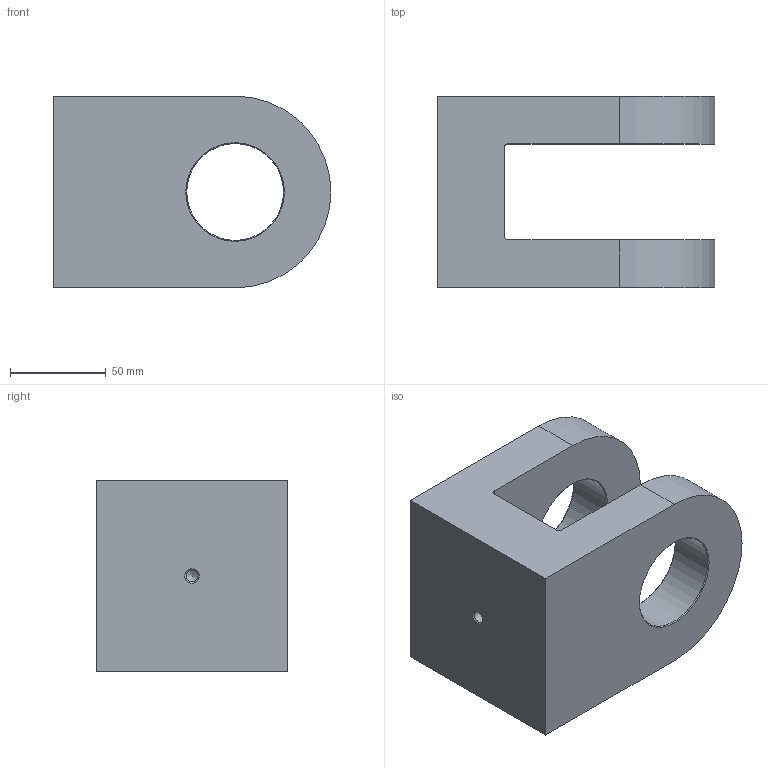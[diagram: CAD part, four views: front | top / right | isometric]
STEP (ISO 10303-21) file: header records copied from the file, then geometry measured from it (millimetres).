
FILE_DESCRIPTION( ( 'Unknown' ), '1' );
FILE_NAME( 'E:/LIBRERIA_3d/ACCESSORI/CFS0000050.stp', 'Unknown', ( 'Unknown' ), ( 'Unknown' ), 'PSStep 17.0.49', 'Unknown', ' ' );
FILE_SCHEMA( ( 'AUTOMOTIVE_DESIGN { 1 0 10303 214 1 1 1 1 }' ) );
Length unit declared in the file: millimetre
Products named in the file (1): 1
Bounding box: 145 x 100 x 100 mm (x, y, z)
Volume: 746024.6 mm3; surface area: 82285.3 mm2
Topology: 1 solids, 1 shells, 21 faces, 55 edges, 36 vertices
Faces by surface type: plane 8, cylinder 7, cone 6
Full cylindrical faces by diameter (mm): 6.25 x1, 50.5 x2
Entity records: 758 total; most frequent: DIRECTION 104, CARTESIAN_POINT 95, ORIENTED_EDGE 82, AXIS2_PLACEMENT_3D 41, EDGE_CURVE 41, EDGE_LOOP 34, VERTEX_POINT 32, FACE_OUTER_BOUND 24
